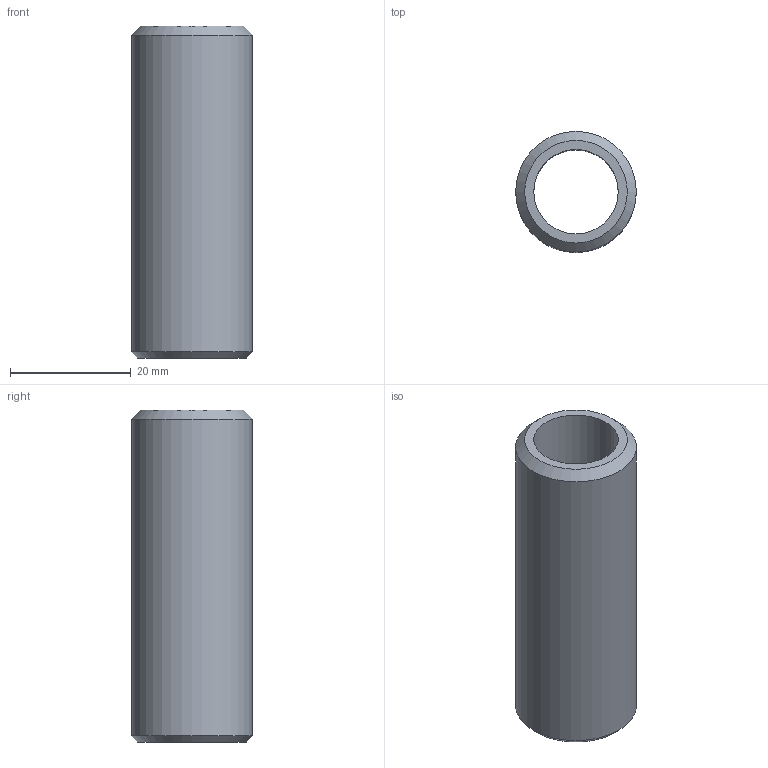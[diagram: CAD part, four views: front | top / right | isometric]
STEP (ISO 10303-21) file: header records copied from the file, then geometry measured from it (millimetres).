
FILE_DESCRIPTION(/* description */ ('','CAx-IF Rec.Pracs.---Representation and Presentation of Product Manufacturing Information (PMI)---4.0---2014-10-13'),/* implementation_level */ '2;1');
FILE_NAME(/* name */ 'rod55.step',/* time_stamp */ '2025-03-18T20:44:54+01:00',/* author */ (''),/* organization */ (''),/* preprocessor_version */ 'ST-DEVELOPER v20',/* originating_system */ 'Autodesk Translation Framework v13.20.0.188',/* authorisation */ '');
FILE_SCHEMA (('AP242_MANAGED_MODEL_BASED_3D_ENGINEERING_MIM_LF { 1 0 10303 442 1 1 4 }'));
Length unit declared in the file: millimetre
Products named in the file (1): rod
Bounding box: 20 x 20 x 55 mm (x, y, z)
Volume: 8714.6 mm3; surface area: 6099 mm2
Topology: 1 solids, 1 shells, 6 faces, 10 edges, 6 vertices
Faces by surface type: cylinder 2, cone 2, plane 2
Full cylindrical faces by diameter (mm): 14 x1, 20 x1
Entity records: 181 total; most frequent: DIRECTION 30, CARTESIAN_POINT 23, ORIENTED_EDGE 20, AXIS2_PLACEMENT_3D 13, EDGE_CURVE 10, EDGE_LOOP 8, FACE_OUTER_BOUND 6, CIRCLE 6
